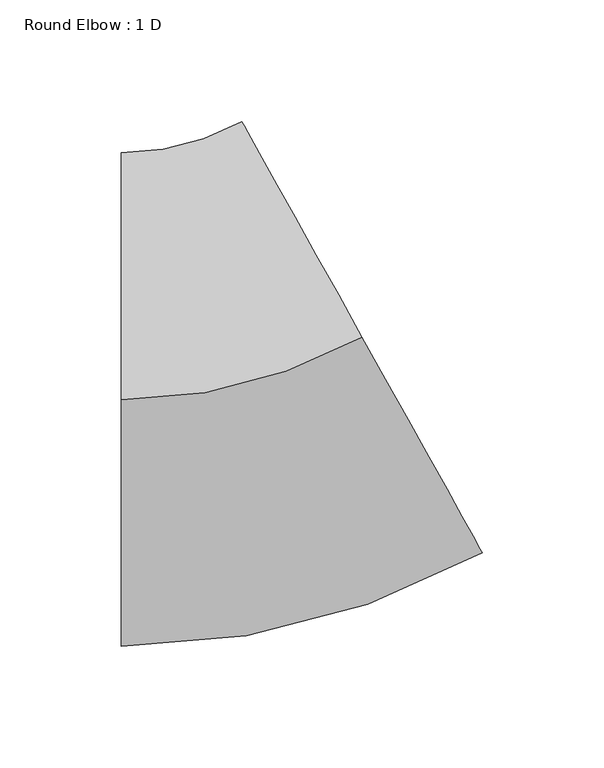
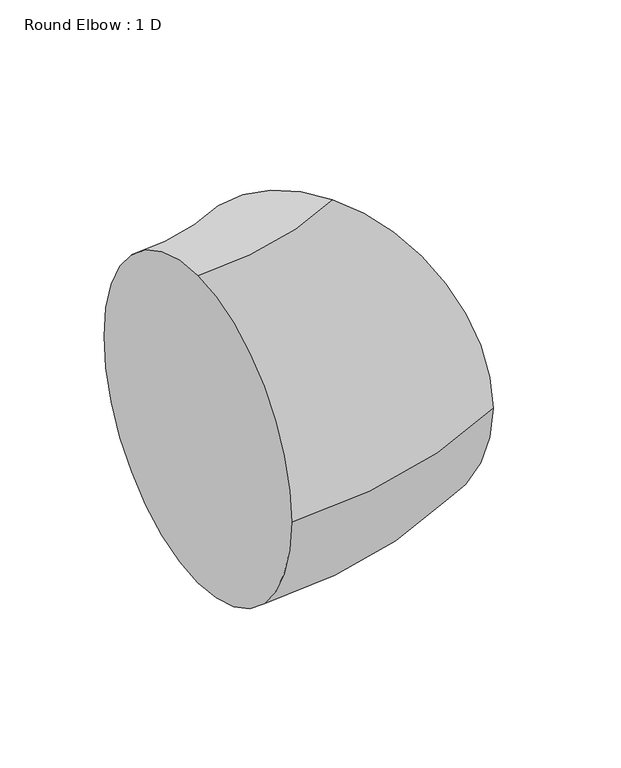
"""IFC4 building model written with IfcOpenShell, lengths in millimetres: duct fitting geometry, Round Elbow : 1 D."""

from ifc_helpers import new_model, si_unit, point, frame, origin, place, context, project, spatial, circle_curve, ellipse_curve, trimmed, source, transform, mapped, element, save
from ifc_brep_helpers import plane_surface, revolved_surface, advanced_brep


def round_elbow_1_d_9364b203(model_context):
    return source(origin(), model_context, "Body", "AdvancedBrep", [
        advanced_brep(
        [(-52.8439551, 0.0, 101.6), (-52.8439551, 101.6, 0.0), (-52.8439551, 0.0, -101.6), (-52.8439551, -101.6, 0.0), (46.1490023, 25.7439931, 101.6), (95.6454809, -62.9840104, 0.0), (46.1490023, 25.7439931, -101.6), (-3.3474764, 114.4719965, 0.0)],
        [
            (0, 1, circle_curve(frame((-52.8439551, 0.0, 0.0), z_axis=(-1.0, 0.0, 0.0), x_axis=(0.0, 1.0, 0.0)), 101.6)),
            (1, 2, circle_curve(frame((-52.8439551, 0.0, 0.0), z_axis=(-1.0, 0.0, 0.0), x_axis=(0.0, 1.0, 0.0)), 101.6)),
            (2, 3, circle_curve(frame((-52.8439551, 0.0, 0.0), z_axis=(-1.0, 0.0, 0.0), x_axis=(0.0, 1.0, 0.0)), 101.6)),
            (3, 0, circle_curve(frame((-52.8439551, 0.0, 0.0), z_axis=(-1.0, 0.0, 0.0), x_axis=(0.0, 1.0, 0.0)), 101.6)),
            (4, 5, circle_curve(frame((46.1490023, 25.7439931, 0.0), z_axis=(0.8733071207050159, 0.48717006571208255, 0.0), x_axis=(-0.48717006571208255, 0.8733071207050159, 0.0)), 101.6)),
            (5, 6, circle_curve(frame((46.1490023, 25.7439931, 0.0), z_axis=(0.8733071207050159, 0.48717006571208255, 0.0), x_axis=(-0.48717006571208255, 0.8733071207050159, 0.0)), 101.6)),
            (6, 7, circle_curve(frame((46.1490023, 25.7439931, 0.0), z_axis=(0.8733071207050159, 0.48717006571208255, 0.0), x_axis=(-0.48717006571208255, 0.8733071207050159, 0.0)), 101.6)),
            (7, 4, circle_curve(frame((46.1490023, 25.7439931, 0.0), z_axis=(0.8733071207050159, 0.48717006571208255, 0.0), x_axis=(-0.48717006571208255, 0.8733071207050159, 0.0)), 101.6)),
            (7, 1, circle_curve(frame((-52.8439551, 203.2, 0.0), z_axis=(0.0, 0.0, -1.0), x_axis=(0.0, -1.0, 0.0)), 101.6)),
            (0, 4, circle_curve(frame((-52.8439551, 203.2, 101.6), z_axis=(0.0, 0.0, 1.0), x_axis=(0.0, -1.0, 0.0)), 203.2)),
            (6, 2, circle_curve(frame((-52.8439551, 203.2, -101.6), z_axis=(0.0, 0.0, -1.0), x_axis=(0.0, -1.0, 0.0)), 203.2)),
            (5, 3, circle_curve(frame((-52.8439551, 203.2, 0.0), z_axis=(0.0, 0.0, -1.0), x_axis=(0.0, -1.0, 0.0)), 304.8)),
        ],
        [
            plane_surface(frame((-52.8439551, 0.0, 0.0), z_axis=(-1.0, 0.0, 0.0), x_axis=(0.0, 0.0, 1.0))),
            plane_surface(frame((46.1490023, 25.7439931, 0.0), z_axis=(0.8733071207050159, 0.48717006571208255, 0.0), x_axis=(0.0, 0.0, 1.0))),
            revolved_surface(trimmed(ellipse_curve(frame((-52.8439551, 0.0, 0.0), z_axis=(-1.0, 0.0, 0.0), x_axis=(0.0, 1.0, 0.0)), 101.6, 101.6), [point((-52.8439551, 0.0, 101.6))], [point((-52.8439551, 101.6, 0.0))], True, "CARTESIAN"), (-52.8439551, 203.2, 0.0), (0.0, 0.0, 1.0)),
            revolved_surface(trimmed(ellipse_curve(frame((-52.8439551, 0.0, 0.0), z_axis=(-1.0, 0.0, 0.0), x_axis=(0.0, 1.0, 0.0)), 101.6, 101.6), [point((-52.8439551, 101.6, 0.0))], [point((-52.8439551, 0.0, -101.6))], True, "CARTESIAN"), (-52.8439551, 203.2, 0.0), (0.0, 0.0, 1.0)),
            revolved_surface(trimmed(ellipse_curve(frame((-52.8439551, 0.0, 0.0), z_axis=(-1.0, 0.0, 0.0), x_axis=(0.0, 1.0, 0.0)), 101.6, 101.6), [point((-52.8439551, 0.0, -101.6))], [point((-52.8439551, -101.6, 0.0))], True, "CARTESIAN"), (-52.8439551, 203.2, 0.0), (0.0, 0.0, 1.0)),
            revolved_surface(trimmed(ellipse_curve(frame((-52.8439551, 0.0, 0.0), z_axis=(-1.0, 0.0, 0.0), x_axis=(0.0, 1.0, 0.0)), 101.6, 101.6), [point((-52.8439551, -101.6, 0.0))], [point((-52.8439551, 0.0, 101.6))], True, "CARTESIAN"), (-52.8439551, 203.2, 0.0), (0.0, 0.0, 1.0)),
        ],
        [
            (0, [[1, 2, 3, 4]]),
            (1, [[5, 6, 7, 8]]),
            (2, [[9, -1, 10, -8]]),
            (3, [[11, -2, -9, -7]]),
            (4, [[12, -3, -11, -6]]),
            (5, [[-10, -4, -12, -5]]),
        ],
    ),
    ])


if __name__ == "__main__":
    model = new_model("IFC4")
    model_context = context("Model", 3, world=origin())
    ifc_project = project(units=[si_unit("LENGTHUNIT", "METRE", prefix="MILLI")], contexts=[model_context])
    site = spatial("IfcSite", under=ifc_project)
    building = spatial("IfcBuilding", under=site)
    placement = place(None, origin())
    round_elbow_1_d_shape = round_elbow_1_d_9364b203(model_context)
    element("IfcDuctFitting", 1, ObjectType="Round Elbow : 1 D", at=placement, inside=building, context=model_context, shape_type="MappedRepresentation", body=[
        mapped(round_elbow_1_d_shape, transform((0.0, 0.0, 0.0), x_axis=(1.0, 0.0, 0.0), y_axis=(0.0, 1.0, 0.0), z_axis=(0.0, 0.0, 1.0))),
    ])
    save(model, "model.ifc")
